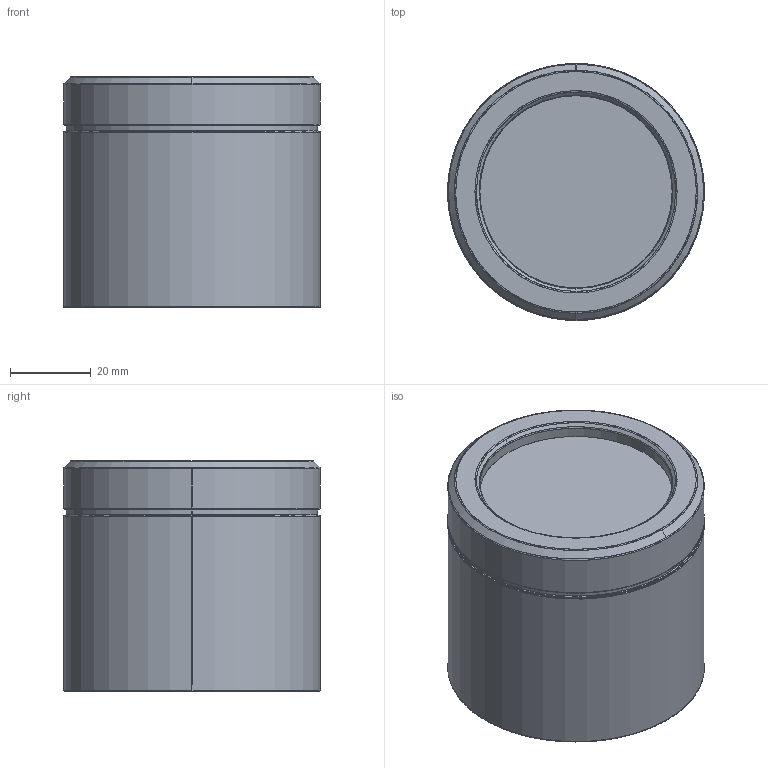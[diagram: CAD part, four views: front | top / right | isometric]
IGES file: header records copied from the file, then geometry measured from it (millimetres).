
Start section: SolidWorks IGES file using analytic representation for surfaces
Global section: file name: C:\Users\10119093\Desktop\Drawing\3D_Drawing\VC\PLM侩\权其捞瘤 档搁\权其捞瘤 档搁 颇老\喊概前\HL-57-VC.IGS; native system: SolidWorks 2018; preprocessor: SolidWorks 2018; author: 10119093; date: 210308.114622; units: millimetre
Bounding box: 63.4 x 63.4 x 57 mm (x, y, z)
Surface area: 27450.3 mm2 (no closed solid volume)
Topology: 0 solids, 0 shells, 64 faces, 1008 edges, 1004 vertices
Faces by surface type: revolution 38, bspline 26
